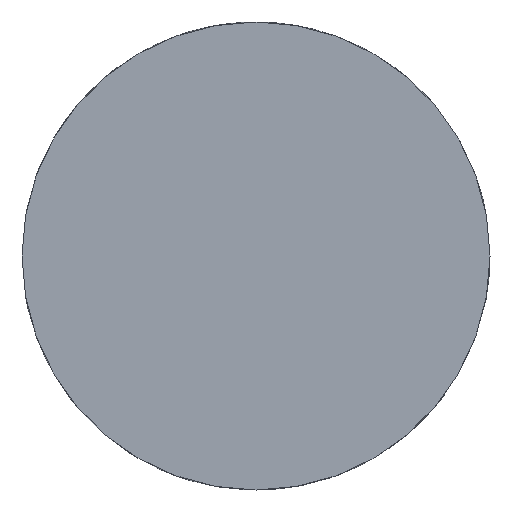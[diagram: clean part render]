
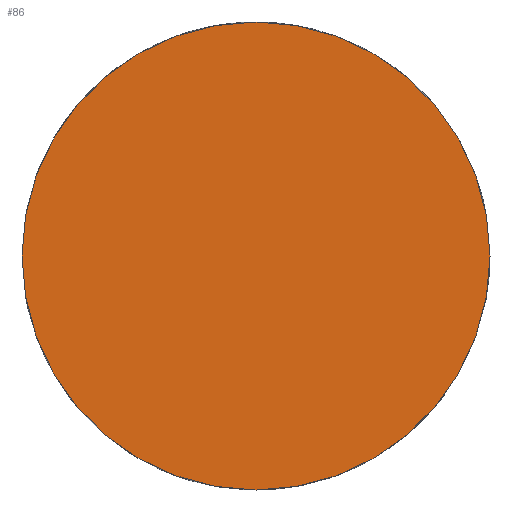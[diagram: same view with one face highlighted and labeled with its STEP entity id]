
A CAD part, front view. The second image highlights one B-rep face of the part: STEP entity #86.
In plain terms, the highlighted planar face has unit normal (0, -1, 0).
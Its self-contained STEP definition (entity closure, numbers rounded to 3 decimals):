
#46=CIRCLE('',#115,20.);
#51=FACE_OUTER_BOUND('',#55,.T.);
#55=EDGE_LOOP('',(#79));
#64=VERTEX_POINT('',#183);
#69=EDGE_CURVE('',#64,#64,#46,.T.);
#79=ORIENTED_EDGE('',*,*,#69,.F.);
#82=PLANE('',#116);
#86=ADVANCED_FACE('',(#51),#82,.F.);
#115=AXIS2_PLACEMENT_3D('',#185,#144,#145);
#116=AXIS2_PLACEMENT_3D('',#186,#146,#147);
#144=DIRECTION('center_axis',(0.,1.,0.));
#145=DIRECTION('ref_axis',(-1.,0.,0.));
#146=DIRECTION('center_axis',(0.,1.,0.));
#147=DIRECTION('ref_axis',(0.,0.,1.));
#183=CARTESIAN_POINT('',(20.,0.,0.));
#185=CARTESIAN_POINT('Origin',(0.,0.,0.));
#186=CARTESIAN_POINT('Origin',(0.,0.,0.));
